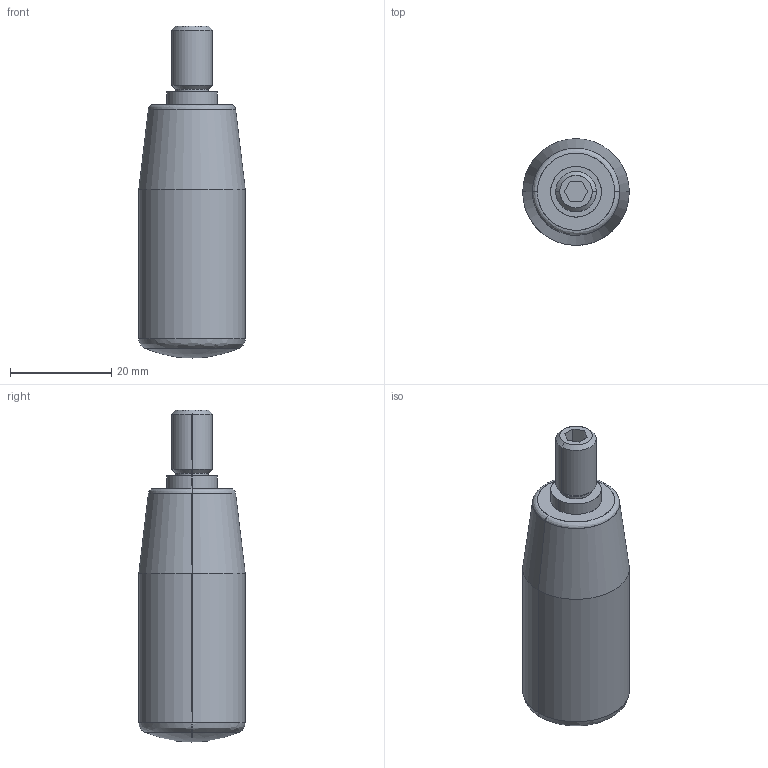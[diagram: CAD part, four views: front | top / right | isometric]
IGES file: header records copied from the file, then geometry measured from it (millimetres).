
Start section: SolidWorks IGES file using analytic representation for surfaces
Global section: file name: C:\HEMSIDA\cad\SLDPRT_2010\gn598\\gn598_50_m8.igs; native system: SolidWorks 2010; preprocessor: SolidWorks 2010; author: Administrator; date: 101001.152005; units: millimetre
Bounding box: 21 x 21 x 65.5 mm (x, y, z)
Surface area: 4061.3 mm2 (no closed solid volume)
Topology: 0 solids, 0 shells, 30 faces, 276 edges, 274 vertices
Faces by surface type: bspline 16, revolution 14
